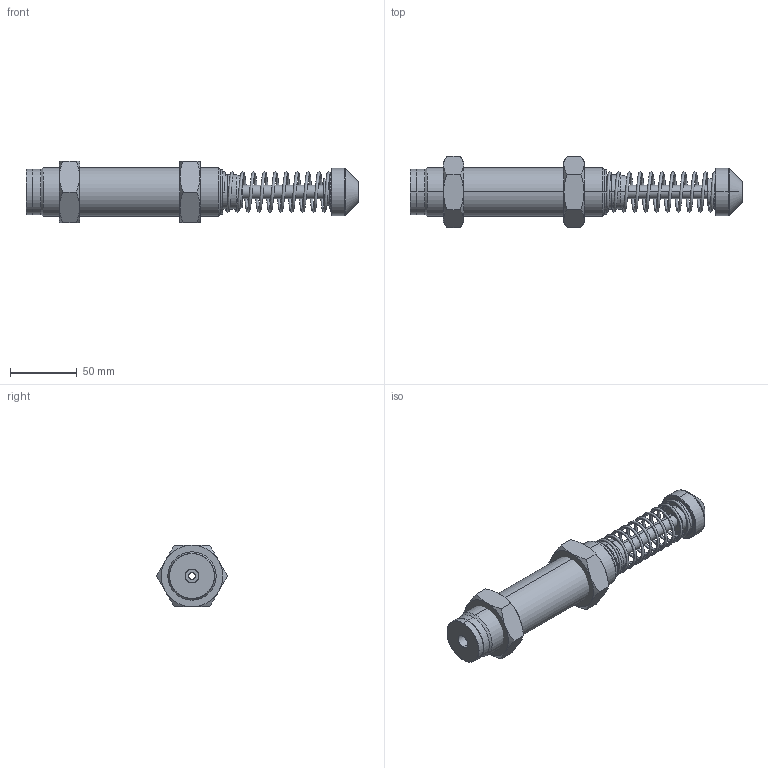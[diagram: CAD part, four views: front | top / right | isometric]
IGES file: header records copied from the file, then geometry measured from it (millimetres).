
Start section: SolidWorks IGES file using analytic representation for surfaces
Global section: file name: D:\IGS跡宒\AC3660.IGS,1; native system: 5HSolidWorks 2013; preprocessor: SolidWorks 2013; author: Administrator; date: 160406.152452; units: inch
Bounding box: 248 x 53.12 x 46 mm (x, y, z)
Surface area: 42404.5 mm2 (no closed solid volume)
Topology: 0 solids, 0 shells, 121 faces, 2345 edges, 2345 vertices
Faces by surface type: revolution 80, bspline 41
